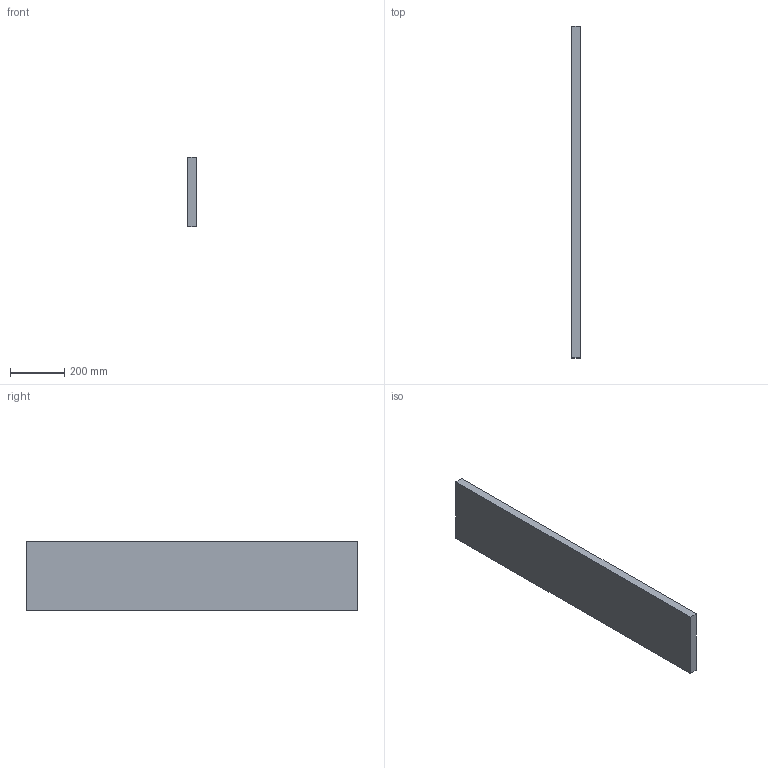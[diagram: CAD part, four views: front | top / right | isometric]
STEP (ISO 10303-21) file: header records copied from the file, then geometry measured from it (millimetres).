
FILE_DESCRIPTION(/* description */ (''),/* implementation_level */ '2;1');
FILE_NAME(/* name */ 'SM_Baffle1.2x10x48',/* time_stamp */ '2024-10-15T11:56:37-05:00',/* author */ (''),/* organization */ (''),/* preprocessor_version */ 'ST-DEVELOPER v19.2',/* originating_system */ 'Rhino 8.4',/* authorisation */ '');
FILE_SCHEMA (('CONFIG_CONTROL_DESIGN'));
Length unit declared in the file: inch
Products named in the file (1): Document
Bounding box: 30.48 x 1219.2 x 254 mm (x, y, z)
Volume: 9438948.9 mm3; surface area: 709159.9 mm2
Topology: 1 solids, 1 shells, 6 faces, 12 edges, 8 vertices
Faces by surface type: plane 6
Entity records: 226 total; most frequent: CARTESIAN_POINT 40, ORIENTED_EDGE 24, EDGE_CURVE 12, B_SPLINE_CURVE_WITH_KNOTS 12, DIRECTION 10, VERTEX_POINT 8, AXIS2_PLACEMENT_3D 8, ORGANIZATION 7
